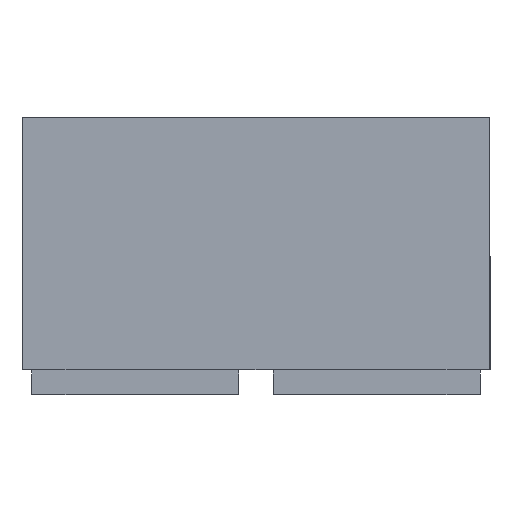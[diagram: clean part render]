
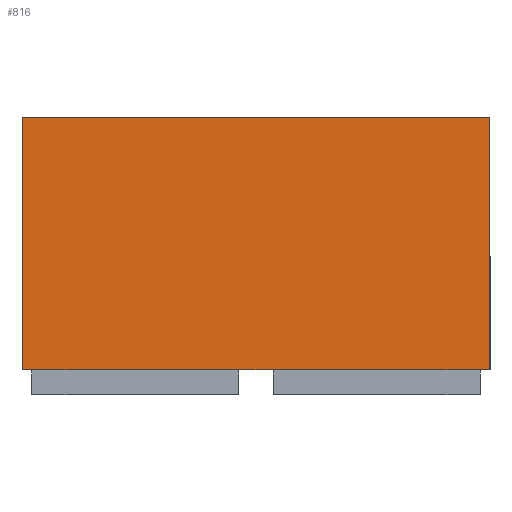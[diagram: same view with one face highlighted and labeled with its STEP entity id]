
A CAD part, left-side view. The second image highlights one B-rep face of the part: STEP entity #816.
In plain terms, the highlighted planar face has unit normal (-1, 0, 0).
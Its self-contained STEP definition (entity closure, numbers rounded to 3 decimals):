
#571=CARTESIAN_POINT('',(-19.272,-116.657,10.0));
#572=VERTEX_POINT('',#571);
#579=CARTESIAN_POINT('',(-19.272,-112.657,10.0));
#580=VERTEX_POINT('',#579);
#581=CARTESIAN_POINT('',(-19.272,-116.657,10.0));
#582=DIRECTION('',(0.0,1.0,0.0));
#583=VECTOR('',#582,4.);
#584=LINE('',#581,#583);
#585=EDGE_CURVE('',#572,#580,#584,.T.);
#654=CARTESIAN_POINT('',(-19.272,-116.657,112.5));
#655=VERTEX_POINT('',#654);
#656=CARTESIAN_POINT('',(-19.272,73.343,112.5));
#657=VERTEX_POINT('',#656);
#658=CARTESIAN_POINT('',(-19.272,-116.657,112.5));
#659=DIRECTION('',(0.0,1.0,0.0));
#660=VECTOR('',#659,190.);
#661=LINE('',#658,#660);
#662=EDGE_CURVE('',#655,#657,#661,.T.);
#706=CARTESIAN_POINT('',(-19.272,69.343,10.0));
#707=VERTEX_POINT('',#706);
#716=CARTESIAN_POINT('',(-19.272,73.343,10.0));
#717=VERTEX_POINT('',#716);
#718=CARTESIAN_POINT('',(-19.272,69.343,10.0));
#719=DIRECTION('',(0.0,1.0,0.0));
#720=VECTOR('',#719,4.0);
#721=LINE('',#718,#720);
#722=EDGE_CURVE('',#707,#717,#721,.T.);
#748=CARTESIAN_POINT('',(-19.272,-14.657,10.0));
#749=VERTEX_POINT('',#748);
#764=CARTESIAN_POINT('',(-19.272,-28.657,10.0));
#765=VERTEX_POINT('',#764);
#772=CARTESIAN_POINT('',(-19.272,-28.657,10.0));
#773=DIRECTION('',(0.0,1.0,0.0));
#774=VECTOR('',#773,14.);
#775=LINE('',#772,#774);
#776=EDGE_CURVE('',#765,#749,#775,.T.);
#781=CARTESIAN_POINT('',(-19.272,-116.657,10.0));
#782=DIRECTION('',(-1.0,0.0,0.0));
#783=DIRECTION('',(0.0,0.0,1.0));
#784=AXIS2_PLACEMENT_3D('',#781,#782,#783);
#785=PLANE('',#784);
#786=CARTESIAN_POINT('',(-19.272,73.343,10.0));
#787=DIRECTION('',(0.0,0.0,1.0));
#788=VECTOR('',#787,102.5);
#789=LINE('',#786,#788);
#790=EDGE_CURVE('',#717,#657,#789,.T.);
#791=ORIENTED_EDGE('',*,*,#790,.F.);
#792=ORIENTED_EDGE('',*,*,#722,.F.);
#793=CARTESIAN_POINT('',(-19.272,-14.657,10.0));
#794=DIRECTION('',(0.0,1.0,0.0));
#795=VECTOR('',#794,84.);
#796=LINE('',#793,#795);
#797=EDGE_CURVE('',#749,#707,#796,.T.);
#798=ORIENTED_EDGE('',*,*,#797,.F.);
#799=ORIENTED_EDGE('',*,*,#776,.F.);
#800=CARTESIAN_POINT('',(-19.272,-112.657,10.0));
#801=DIRECTION('',(0.0,1.0,0.0));
#802=VECTOR('',#801,84.);
#803=LINE('',#800,#802);
#804=EDGE_CURVE('',#580,#765,#803,.T.);
#805=ORIENTED_EDGE('',*,*,#804,.F.);
#806=ORIENTED_EDGE('',*,*,#585,.F.);
#807=CARTESIAN_POINT('',(-19.272,-116.657,10.0));
#808=DIRECTION('',(0.0,0.0,1.0));
#809=VECTOR('',#808,102.5);
#810=LINE('',#807,#809);
#811=EDGE_CURVE('',#572,#655,#810,.T.);
#812=ORIENTED_EDGE('',*,*,#811,.T.);
#813=ORIENTED_EDGE('',*,*,#662,.T.);
#814=EDGE_LOOP('',(#791,#792,#798,#799,#805,#806,#812,#813));
#815=FACE_OUTER_BOUND('',#814,.T.);
#816=ADVANCED_FACE('',(#815),#785,.T.);
